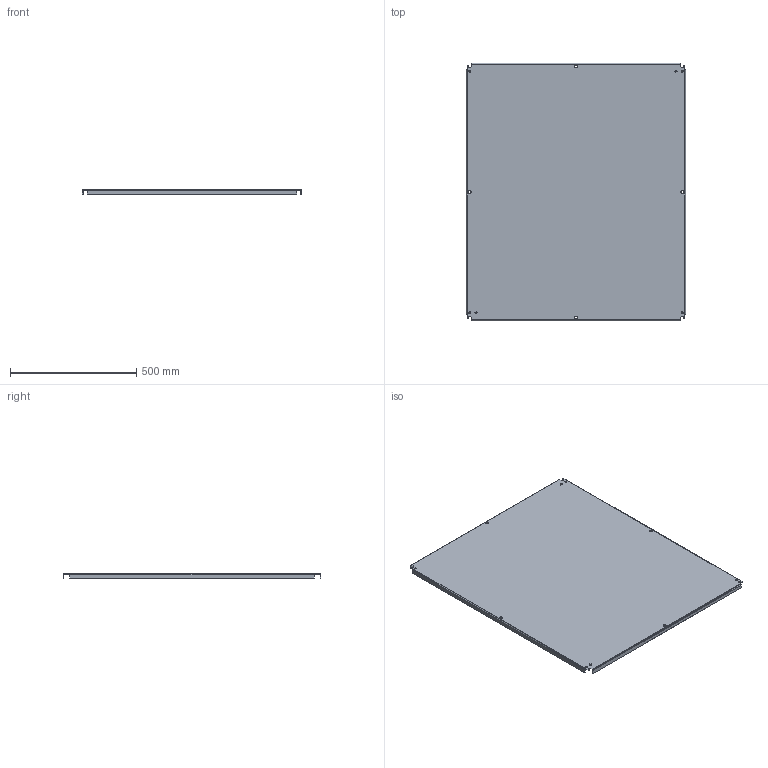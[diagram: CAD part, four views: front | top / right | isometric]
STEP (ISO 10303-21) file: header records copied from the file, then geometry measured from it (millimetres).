
FILE_DESCRIPTION (( 'STEP AP203' ), '1' );
FILE_NAME ('cp4236g.STEP', '2011-10-17T16:10:43', ( 'Hoffman User' ), ( 'Hoffman Enclosures' ), 'SwSTEP 2.0', 'SolidWorks 2010', '' );
FILE_SCHEMA (( 'CONFIG_CONTROL_DESIGN' ));
Length unit declared in the file: inch
Products named in the file (2): 64403019; cp4236g
Assembly tree (1 placements, depth 2):
  cp4236g
    64403019
Bounding box: 868.68 x 1021.08 x 19.05 mm (x, y, z)
Volume: 2316222 mm3; surface area: 1890567.7 mm2
Topology: 1 solids, 1 shells, 160 faces, 396 edges, 244 vertices
Faces by surface type: plane 132, cylinder 28
Entity records: 4852 total; most frequent: CARTESIAN_POINT 804, ORIENTED_EDGE 792, DIRECTION 784, EDGE_CURVE 396, LINE 336, VECTOR 336, VERTEX_POINT 244, AXIS2_PLACEMENT_3D 224
